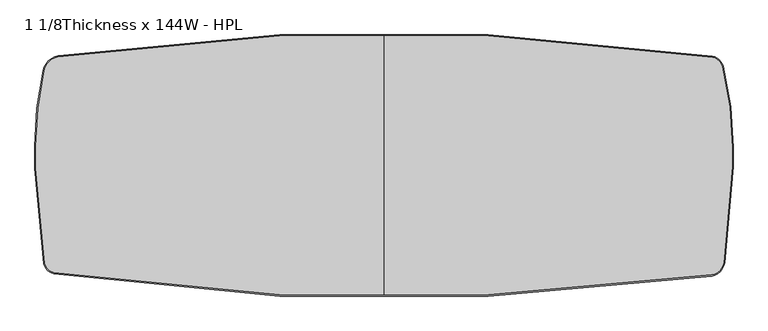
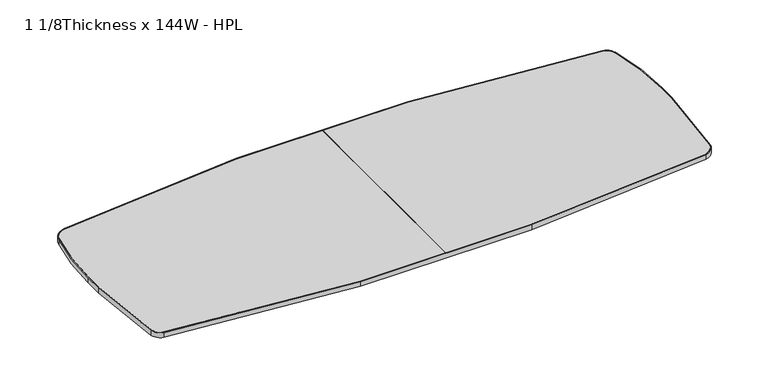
"""IFC4 building model written with IfcOpenShell, lengths in millimetres: furniture geometry, Steelcase - Groupwork - Table - Conference Table Top - Boat Shaped : 1 1/8Thickness x 144W - HPL."""

from ifc_helpers import new_model, si_unit, point, frame, frame_2d, origin, place, context, project, spatial, polyline, circle_curve, trimmed, segment, composite_curve, outline, extrude, source, transform, mapped, element, save


def furniture_1_1_8thickness_x_144w_hpl_b3f6ecbc(model_context):
    return source(origin(), model_context, "Body", "SweptSolid", [
        extrude(outline(composite_curve([segment(polyline([(732.5215864, 1219.2), (1706.3664788, 1219.2)]), True, "CONTINUOUS"), segment(trimmed(circle_curve(frame_2d((1706.3664788, -4333.0645975)), 5552.2645975), [point((1706.3664788, 1219.2))], [point((2753.049586, 1119.6500139))], False, "CARTESIAN"), True, "CONTINUOUS"), segment(trimmed(circle_curve(frame_2d((2741.0789069, 1057.2885447)), 63.5), [point((2753.049586, 1119.6500139))], [point((2802.6964806, 1072.635356))], False, "CARTESIAN"), True, "CONTINUOUS"), segment(trimmed(circle_curve(frame_2d((1275.0446392, 692.15)), 1574.3218396), [point((2802.6964806, 1072.635356))], [point((2849.3664788, 692.15))], False, "CARTESIAN"), True, "CONTINUOUS"), segment(polyline([(2849.3664788, 692.15), (2849.3664788, 603.25)]), True, "CONTINUOUS"), segment(trimmed(circle_curve(frame_2d((236.21328, 603.25)), 2613.1531989), [point((2849.3664788, 603.25))], [point((2810.6637937, 155.1716667))], False, "CARTESIAN"), True, "CONTINUOUS"), segment(trimmed(circle_curve(frame_2d((2735.5923707, 168.2377086)), 76.2), [point((2810.6637937, 155.1716667))], [point((2749.1125035, 93.2467357))], False, "CARTESIAN"), True, "CONTINUOUS"), segment(trimmed(circle_curve(frame_2d((1706.3664788, 5876.9576085)), 5876.9576085), [point((2749.1125035, 93.2467357))], [point((1706.3664788, 0.0))], False, "CARTESIAN"), True, "CONTINUOUS"), segment(polyline([(1706.3664788, 0.0), (732.5215864, 0.0)]), True, "CONTINUOUS"), segment(trimmed(circle_curve(frame_2d((732.5215864, 5379.0678276)), 5379.0678276), [point((732.5215864, 0.0))], [point((-321.932488, 104.3643005))], False, "CARTESIAN"), True, "CONTINUOUS"), segment(trimmed(circle_curve(frame_2d((-310.3444077, 162.3314413)), 59.1140678), [point((-321.932488, 104.3643005))], [point((-368.4143762, 151.2701673))], False, "CARTESIAN"), True, "CONTINUOUS"), segment(trimmed(circle_curve(frame_2d((1971.0729471, 596.9)), 2381.5513607), [point((-368.4143762, 151.2701673))], [point((-410.4784136, 596.9))], False, "CARTESIAN"), True, "CONTINUOUS"), segment(polyline([(-410.4784136, 596.9), (-410.4784136, 698.5)]), True, "CONTINUOUS"), segment(trimmed(circle_curve(frame_2d((1250.6455185, 698.5)), 1661.1239321), [point((-410.4784136, 698.5))], [point((-372.0975001, 1053.5180462))], False, "CARTESIAN"), True, "CONTINUOUS"), segment(trimmed(circle_curve(frame_2d((-285.2515692, 1034.5181969)), 88.9), [point((-372.0975001, 1053.5180462))], [point((-301.8372903, 1121.8573282))], False, "CARTESIAN"), True, "CONTINUOUS"), segment(trimmed(circle_curve(frame_2d((732.5215864, -4324.9969173)), 5544.1969173), [point((-301.8372903, 1121.8573282))], [point((732.5215864, 1219.2))], False, "CARTESIAN"), True, "CONTINUOUS")], self_intersect=False), holes=[composite_curve([segment(trimmed(circle_curve(frame_2d((2741.0789069, 1057.2885447)), 58.42), [point((2797.7670747, 1071.4076111))], [point((2752.0919316, 1114.6610964))], True, "CARTESIAN"), True, "CONTINUOUS"), segment(trimmed(circle_curve(frame_2d((1706.3664788, -4333.0645975)), 5547.1845975), [point((2752.0919316, 1114.6610964))], [point((1706.3664788, 1214.12))], True, "CARTESIAN"), True, "CONTINUOUS"), segment(polyline([(1706.3664788, 1214.12), (732.5215864, 1214.12)]), True, "CONTINUOUS"), segment(trimmed(circle_curve(frame_2d((732.5215864, -4324.9969173)), 5539.1169173), [point((732.5215864, 1214.12))], [point((-300.8895348, 1116.8665207))], True, "CARTESIAN"), True, "CONTINUOUS"), segment(trimmed(circle_curve(frame_2d((-285.2515692, 1034.5181969)), 83.82), [point((-300.8895348, 1116.8665207))], [point((-367.1348755, 1052.4323405))], True, "CARTESIAN"), True, "CONTINUOUS"), segment(trimmed(circle_curve(frame_2d((1250.6455185, 698.5)), 1656.0439321), [point((-367.1348755, 1052.4323405))], [point((-405.3984136, 698.5))], True, "CARTESIAN"), True, "CONTINUOUS"), segment(polyline([(-405.3984136, 698.5), (-405.3984136, 596.9)]), True, "CONTINUOUS"), segment(trimmed(circle_curve(frame_2d((1971.0729471, 596.9)), 2376.4713607), [point((-405.3984136, 596.9))], [point((-363.4241014, 152.220724))], True, "CARTESIAN"), True, "CONTINUOUS"), segment(trimmed(circle_curve(frame_2d((-310.3444077, 162.3314413)), 54.0340678), [point((-363.4241014, 152.220724))], [point((-320.9366599, 109.3457387))], True, "CARTESIAN"), True, "CONTINUOUS"), segment(trimmed(circle_curve(frame_2d((732.5215864, 5379.0678276)), 5373.9878276), [point((-320.9366599, 109.3457387))], [point((732.5215864, 5.08))], True, "CARTESIAN"), True, "CONTINUOUS"), segment(polyline([(732.5215864, 5.08), (1706.3664788, 5.08)]), True, "CONTINUOUS"), segment(trimmed(circle_curve(frame_2d((1706.3664788, 5876.9576085)), 5871.8776085), [point((1706.3664788, 5.08))], [point((2748.2111613, 98.2461339))], True, "CARTESIAN"), True, "CONTINUOUS"), segment(trimmed(circle_curve(frame_2d((2735.5923707, 168.2377086)), 71.12), [point((2748.2111613, 98.2461339))], [point((2805.6590322, 156.0427362))], True, "CARTESIAN"), True, "CONTINUOUS"), segment(trimmed(circle_curve(frame_2d((236.21328, 603.25)), 2608.0731989), [point((2805.6590322, 156.0427362))], [point((2844.2864788, 603.25))], True, "CARTESIAN"), True, "CONTINUOUS"), segment(polyline([(2844.2864788, 603.25), (2844.2864788, 692.15)]), True, "CONTINUOUS"), segment(trimmed(circle_curve(frame_2d((1275.0446392, 692.15)), 1569.2418396), [point((2844.2864788, 692.15))], [point((2797.7670747, 1071.4076111))], True, "CARTESIAN"), True, "CONTINUOUS")], self_intersect=False)]), frame((0.0, 0.0, 694.944), z_axis=(0.0, 0.0, 1.0), x_axis=(1.0, 0.0, 0.0)), (0.0, 0.0, 1.0), 28.702),
        extrude(outline(composite_curve([segment(polyline([(732.5215864, 1214.12), (1217.6125, 1214.12), (1217.6125, 5.08), (732.5215864, 5.08)]), True, "CONTINUOUS"), segment(trimmed(circle_curve(frame_2d((732.5215864, 5379.0678276)), 5373.9878276), [point((732.5215864, 5.08))], [point((-320.9366599, 109.3457387))], False, "CARTESIAN"), True, "CONTINUOUS"), segment(trimmed(circle_curve(frame_2d((-310.3444077, 162.3314413)), 54.0340678), [point((-320.9366599, 109.3457387))], [point((-363.4241014, 152.220724))], False, "CARTESIAN"), True, "CONTINUOUS"), segment(trimmed(circle_curve(frame_2d((1971.0729471, 596.9)), 2376.4713607), [point((-363.4241014, 152.220724))], [point((-405.3984136, 596.9))], False, "CARTESIAN"), True, "CONTINUOUS"), segment(polyline([(-405.3984136, 596.9), (-405.3984136, 698.5)]), True, "CONTINUOUS"), segment(trimmed(circle_curve(frame_2d((1250.6455185, 698.5)), 1656.0439321), [point((-405.3984136, 698.5))], [point((-367.1348755, 1052.4323405))], False, "CARTESIAN"), True, "CONTINUOUS"), segment(trimmed(circle_curve(frame_2d((-285.2515692, 1034.5181969)), 83.82), [point((-367.1348755, 1052.4323405))], [point((-300.8895348, 1116.8665207))], False, "CARTESIAN"), True, "CONTINUOUS"), segment(trimmed(circle_curve(frame_2d((732.5215864, -4324.9969173)), 5539.1169173), [point((-300.8895348, 1116.8665207))], [point((732.5215864, 1214.12))], False, "CARTESIAN"), True, "CONTINUOUS")], self_intersect=False)), frame((0.0, 0.0, 694.944), z_axis=(0.0, 0.0, 1.0), x_axis=(1.0, 0.0, 0.0)), (0.0, 0.0, 1.0), 28.702),
        extrude(outline(composite_curve([segment(trimmed(circle_curve(frame_2d((2741.0789069, 1057.2885447)), 58.42), [point((2752.0919316, 1114.6610964))], [point((2797.7670747, 1071.4076111))], False, "CARTESIAN"), True, "CONTINUOUS"), segment(trimmed(circle_curve(frame_2d((1275.0446392, 692.15)), 1569.2418396), [point((2797.7670747, 1071.4076111))], [point((2844.2864788, 692.15))], False, "CARTESIAN"), True, "CONTINUOUS"), segment(polyline([(2844.2864788, 692.15), (2844.2864788, 603.25)]), True, "CONTINUOUS"), segment(trimmed(circle_curve(frame_2d((236.21328, 603.25)), 2608.0731989), [point((2844.2864788, 603.25))], [point((2805.6590322, 156.0427362))], False, "CARTESIAN"), True, "CONTINUOUS"), segment(trimmed(circle_curve(frame_2d((2735.5923707, 168.2377086)), 71.12), [point((2805.6590322, 156.0427362))], [point((2748.2111613, 98.2461339))], False, "CARTESIAN"), True, "CONTINUOUS"), segment(trimmed(circle_curve(frame_2d((1706.3664788, 5876.9576085)), 5871.8776085), [point((2748.2111613, 98.2461339))], [point((1706.3664788, 5.08))], False, "CARTESIAN"), True, "CONTINUOUS"), segment(polyline([(1706.3664788, 5.08), (1220.7875, 5.08), (1220.7875, 1214.12), (1706.3664788, 1214.12)]), True, "CONTINUOUS"), segment(trimmed(circle_curve(frame_2d((1706.3664788, -4333.0645975)), 5547.1845975), [point((1706.3664788, 1214.12))], [point((2752.0919316, 1114.6610964))], False, "CARTESIAN"), True, "CONTINUOUS")], self_intersect=False)), frame((0.0, 0.0, 694.944), z_axis=(0.0, 0.0, 1.0), x_axis=(1.0, 0.0, 0.0)), (0.0, 0.0, 1.0), 28.702),
    ])


if __name__ == "__main__":
    model = new_model("IFC4")
    model_context = context("Model", 3, world=origin())
    ifc_project = project(units=[si_unit("LENGTHUNIT", "METRE", prefix="MILLI")], contexts=[model_context])
    site = spatial("IfcSite", under=ifc_project)
    building = spatial("IfcBuilding", under=site)
    placement = place(None, origin())
    furniture_1_1_8thickness_x_144w_hpl_shape = furniture_1_1_8thickness_x_144w_hpl_b3f6ecbc(model_context)
    element("IfcFurniture", 1, ObjectType="Steelcase - Groupwork - Table - Conference Table Top - Boat Shaped : 1 1/8Thickness x 144W - HPL", at=placement, inside=building, context=model_context, shape_type="MappedRepresentation", body=[
        mapped(furniture_1_1_8thickness_x_144w_hpl_shape, transform((0.0, 0.0, 0.0), x_axis=(1.0, 0.0, 0.0), y_axis=(0.0, 1.0, 0.0), z_axis=(0.0, 0.0, 1.0))),
    ])
    save(model, "model.ifc")
